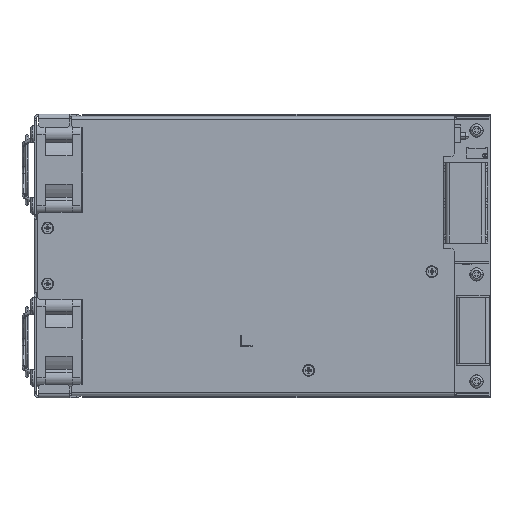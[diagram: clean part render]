
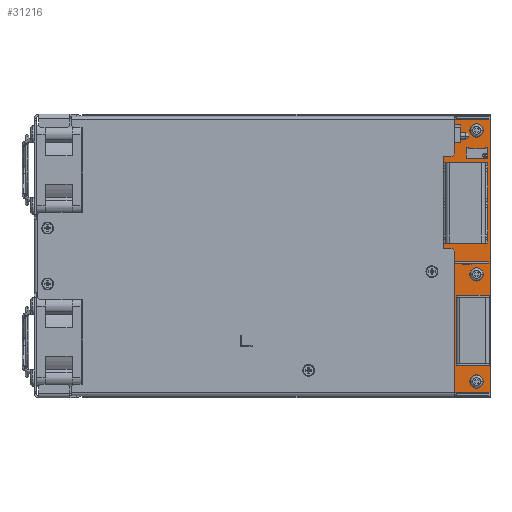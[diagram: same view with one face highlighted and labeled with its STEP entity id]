
A CAD part, front view. The second image highlights one B-rep face of the part: STEP entity #31216.
In plain terms, the highlighted planar face has unit normal (0, -1, 0) as drawn and (0, 1, 0) by its records, which use the part's own axes.
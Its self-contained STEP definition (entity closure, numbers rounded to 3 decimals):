
#30657=DIRECTION('',(1.,0.,0.));
#30658=VECTOR('',#30657,0.5);
#30659=CARTESIAN_POINT('',(-61.2,1.6,-155.5));
#30660=LINE('',#30659,#30658);
#30669=DIRECTION('',(0.,0.,-1.));
#30670=VECTOR('',#30669,8.);
#30671=CARTESIAN_POINT('',(-59.7,1.6,-146.5));
#30672=LINE('',#30671,#30670);
#30673=CARTESIAN_POINT('',(-60.7,1.6,-154.5));
#30674=DIRECTION('',(0.,1.,0.));
#30675=DIRECTION('',(1.,0.,0.));
#30676=AXIS2_PLACEMENT_3D('',#30673,#30674,#30675);
#30678=DIRECTION('',(-1.,0.,0.));
#30679=VECTOR('',#30678,9.);
#30680=CARTESIAN_POINT('',(61.2,1.6,-9.));
#30681=LINE('',#30680,#30679);
#30682=DIRECTION('',(0.,0.,1.));
#30683=VECTOR('',#30682,9.);
#30684=CARTESIAN_POINT('',(52.2,1.6,-9.));
#30685=LINE('',#30684,#30683);
#30686=DIRECTION('',(0.,0.,-1.));
#30687=VECTOR('',#30686,9.);
#30688=CARTESIAN_POINT('',(-59.7,1.6,0.));
#30689=LINE('',#30688,#30687);
#30690=DIRECTION('',(1.,0.,0.));
#30691=VECTOR('',#30690,0.5);
#30692=CARTESIAN_POINT('',(-61.2,1.6,-145.5));
#30693=LINE('',#30692,#30691);
#30694=CARTESIAN_POINT('',(-60.7,1.6,-146.5));
#30695=DIRECTION('',(0.,1.,0.));
#30696=DIRECTION('',(0.,0.,1.));
#30697=AXIS2_PLACEMENT_3D('',#30694,#30695,#30696);
#30699=CARTESIAN_POINT('',(46.7,1.6,-5.5));
#30700=DIRECTION('',(0.,1.,0.));
#30701=DIRECTION('',(0.,0.,-1.));
#30702=AXIS2_PLACEMENT_3D('',#30699,#30700,#30701);
#30704=CARTESIAN_POINT('',(46.7,1.6,-5.5));
#30705=DIRECTION('',(0.,1.,0.));
#30706=DIRECTION('',(0.,0.,1.));
#30707=AXIS2_PLACEMENT_3D('',#30704,#30705,#30706);
#30709=CARTESIAN_POINT('',(-56.2,1.6,-175.));
#30710=DIRECTION('',(0.,1.,0.));
#30711=DIRECTION('',(0.,0.,-1.));
#30712=AXIS2_PLACEMENT_3D('',#30709,#30710,#30711);
#30714=CARTESIAN_POINT('',(-56.2,1.6,-175.));
#30715=DIRECTION('',(0.,1.,0.));
#30716=DIRECTION('',(0.,0.,1.));
#30717=AXIS2_PLACEMENT_3D('',#30714,#30715,#30716);
#30719=CARTESIAN_POINT('',(56.2,1.6,-175.));
#30720=DIRECTION('',(0.,1.,0.));
#30721=DIRECTION('',(0.,0.,-1.));
#30722=AXIS2_PLACEMENT_3D('',#30719,#30720,#30721);
#30724=CARTESIAN_POINT('',(56.2,1.6,-175.));
#30725=DIRECTION('',(0.,1.,0.));
#30726=DIRECTION('',(0.,0.,1.));
#30727=AXIS2_PLACEMENT_3D('',#30724,#30725,#30726);
#30729=CARTESIAN_POINT('',(8.2,1.6,-175.));
#30730=DIRECTION('',(0.,1.,0.));
#30731=DIRECTION('',(0.,0.,-1.));
#30732=AXIS2_PLACEMENT_3D('',#30729,#30730,#30731);
#30734=CARTESIAN_POINT('',(8.2,1.6,-175.));
#30735=DIRECTION('',(0.,1.,0.));
#30736=DIRECTION('',(0.,0.,1.));
#30737=AXIS2_PLACEMENT_3D('',#30734,#30735,#30736);
#30739=CARTESIAN_POINT('',(5.2,1.6,-103.));
#30740=DIRECTION('',(0.,1.,0.));
#30741=DIRECTION('',(0.,0.,-1.));
#30742=AXIS2_PLACEMENT_3D('',#30739,#30740,#30741);
#30744=CARTESIAN_POINT('',(5.2,1.6,-103.));
#30745=DIRECTION('',(0.,1.,0.));
#30746=DIRECTION('',(0.,0.,1.));
#30747=AXIS2_PLACEMENT_3D('',#30744,#30745,#30746);
#30769=DIRECTION('',(0.,0.,1.));
#30770=VECTOR('',#30769,136.5);
#30771=CARTESIAN_POINT('',(-61.2,1.6,-145.5));
#30772=LINE('',#30771,#30770);
#30777=DIRECTION('',(1.,0.,0.));
#30778=VECTOR('',#30777,1.5);
#30779=CARTESIAN_POINT('',(-61.2,1.6,-9.));
#30780=LINE('',#30779,#30778);
#30793=DIRECTION('',(1.,0.,0.));
#30794=VECTOR('',#30793,43.);
#30795=CARTESIAN_POINT('',(-59.7,1.6,0.));
#30796=LINE('',#30795,#30794);
#30801=DIRECTION('',(0.,0.,1.));
#30802=VECTOR('',#30801,20.);
#30803=CARTESIAN_POINT('',(-16.7,1.6,0.));
#30804=LINE('',#30803,#30802);
#30809=DIRECTION('',(1.,0.,0.));
#30810=VECTOR('',#30809,33.4);
#30811=CARTESIAN_POINT('',(-16.7,1.6,20.));
#30812=LINE('',#30811,#30810);
#30817=DIRECTION('',(0.,0.,-1.));
#30818=VECTOR('',#30817,20.);
#30819=CARTESIAN_POINT('',(16.7,1.6,20.));
#30820=LINE('',#30819,#30818);
#30825=DIRECTION('',(1.,0.,0.));
#30826=VECTOR('',#30825,35.5);
#30827=CARTESIAN_POINT('',(16.7,1.6,0.));
#30828=LINE('',#30827,#30826);
#30849=DIRECTION('',(0.,0.,-1.));
#30850=VECTOR('',#30849,172.);
#30851=CARTESIAN_POINT('',(61.2,1.6,-9.));
#30852=LINE('',#30851,#30850);
#30857=DIRECTION('',(-1.,0.,0.));
#30858=VECTOR('',#30857,122.4);
#30859=CARTESIAN_POINT('',(61.2,1.6,-181.));
#30860=LINE('',#30859,#30858);
#30865=DIRECTION('',(0.,0.,1.));
#30866=VECTOR('',#30865,25.5);
#30867=CARTESIAN_POINT('',(-61.2,1.6,-181.));
#30868=LINE('',#30867,#30866);
#30965=CARTESIAN_POINT('',(-60.7,1.6,-155.5));
#30966=VERTEX_POINT('',#30965);
#30967=CARTESIAN_POINT('',(-61.2,1.6,-155.5));
#30968=VERTEX_POINT('',#30967);
#30969=CARTESIAN_POINT('',(-59.7,1.6,-154.5));
#30970=VERTEX_POINT('',#30969);
#30971=CARTESIAN_POINT('',(-59.7,1.6,-146.5));
#30972=VERTEX_POINT('',#30971);
#30973=CARTESIAN_POINT('',(-61.2,1.6,-181.));
#30974=VERTEX_POINT('',#30973);
#30975=CARTESIAN_POINT('',(61.2,1.6,-181.));
#30976=VERTEX_POINT('',#30975);
#30977=CARTESIAN_POINT('',(61.2,1.6,-9.));
#30978=VERTEX_POINT('',#30977);
#30979=CARTESIAN_POINT('',(52.2,1.6,-9.));
#30980=VERTEX_POINT('',#30979);
#30981=CARTESIAN_POINT('',(52.2,1.6,0.));
#30982=VERTEX_POINT('',#30981);
#30983=CARTESIAN_POINT('',(16.7,1.6,0.));
#30984=VERTEX_POINT('',#30983);
#30985=CARTESIAN_POINT('',(16.7,1.6,20.));
#30986=VERTEX_POINT('',#30985);
#30987=CARTESIAN_POINT('',(-16.7,1.6,20.));
#30988=VERTEX_POINT('',#30987);
#30989=CARTESIAN_POINT('',(-16.7,1.6,0.));
#30990=VERTEX_POINT('',#30989);
#30991=CARTESIAN_POINT('',(-59.7,1.6,0.));
#30992=VERTEX_POINT('',#30991);
#30993=CARTESIAN_POINT('',(-59.7,1.6,-9.));
#30994=VERTEX_POINT('',#30993);
#30995=CARTESIAN_POINT('',(-61.2,1.6,-9.));
#30996=VERTEX_POINT('',#30995);
#30997=CARTESIAN_POINT('',(-61.2,1.6,-145.5));
#30998=VERTEX_POINT('',#30997);
#30999=CARTESIAN_POINT('',(-60.7,1.6,-145.5));
#31000=VERTEX_POINT('',#30999);
#31001=CARTESIAN_POINT('',(46.7,1.6,-7.25));
#31002=CARTESIAN_POINT('',(46.7,1.6,-3.75));
#31003=VERTEX_POINT('',#31001);
#31004=VERTEX_POINT('',#31002);
#31005=CARTESIAN_POINT('',(-56.2,1.6,-176.75));
#31006=CARTESIAN_POINT('',(-56.2,1.6,-173.25));
#31007=VERTEX_POINT('',#31005);
#31008=VERTEX_POINT('',#31006);
#31009=CARTESIAN_POINT('',(56.2,1.6,-176.75));
#31010=CARTESIAN_POINT('',(56.2,1.6,-173.25));
#31011=VERTEX_POINT('',#31009);
#31012=VERTEX_POINT('',#31010);
#31013=CARTESIAN_POINT('',(8.2,1.6,-176.75));
#31014=CARTESIAN_POINT('',(8.2,1.6,-173.25));
#31015=VERTEX_POINT('',#31013);
#31016=VERTEX_POINT('',#31014);
#31017=CARTESIAN_POINT('',(5.2,1.6,-104.75));
#31018=CARTESIAN_POINT('',(5.2,1.6,-101.25));
#31019=VERTEX_POINT('',#31017);
#31020=VERTEX_POINT('',#31018);
#31145=CARTESIAN_POINT('',(0.,1.6,0.));
#31146=DIRECTION('',(0.,1.,0.));
#31147=DIRECTION('',(1.,0.,0.));
#31148=AXIS2_PLACEMENT_3D('',#31145,#31146,#31147);
#31149=PLANE('',#31148);
#31151=ORIENTED_EDGE('',*,*,#31150,.T.);
#31152=ORIENTED_EDGE('',*,*,#31130,.T.);
#31153=ORIENTED_EDGE('',*,*,#31112,.F.);
#31155=ORIENTED_EDGE('',*,*,#31154,.F.);
#31157=ORIENTED_EDGE('',*,*,#31156,.F.);
#31159=ORIENTED_EDGE('',*,*,#31158,.F.);
#31161=ORIENTED_EDGE('',*,*,#31160,.T.);
#31163=ORIENTED_EDGE('',*,*,#31162,.T.);
#31165=ORIENTED_EDGE('',*,*,#31164,.F.);
#31167=ORIENTED_EDGE('',*,*,#31166,.F.);
#31169=ORIENTED_EDGE('',*,*,#31168,.F.);
#31171=ORIENTED_EDGE('',*,*,#31170,.F.);
#31173=ORIENTED_EDGE('',*,*,#31172,.F.);
#31175=ORIENTED_EDGE('',*,*,#31174,.T.);
#31177=ORIENTED_EDGE('',*,*,#31176,.F.);
#31179=ORIENTED_EDGE('',*,*,#31178,.F.);
#31181=ORIENTED_EDGE('',*,*,#31180,.T.);
#31183=ORIENTED_EDGE('',*,*,#31182,.T.);
#31184=EDGE_LOOP('',(#31151,#31152,#31153,#31155,#31157,#31159,#31161,#31163,
#31165,#31167,#31169,#31171,#31173,#31175,#31177,#31179,#31181,#31183));
#31185=FACE_OUTER_BOUND('',#31184,.F.);
#31187=ORIENTED_EDGE('',*,*,#31186,.T.);
#31189=ORIENTED_EDGE('',*,*,#31188,.T.);
#31190=EDGE_LOOP('',(#31187,#31189));
#31191=FACE_BOUND('',#31190,.F.);
#31193=ORIENTED_EDGE('',*,*,#31192,.T.);
#31195=ORIENTED_EDGE('',*,*,#31194,.T.);
#31196=EDGE_LOOP('',(#31193,#31195));
#31197=FACE_BOUND('',#31196,.F.);
#31199=ORIENTED_EDGE('',*,*,#31198,.T.);
#31201=ORIENTED_EDGE('',*,*,#31200,.T.);
#31202=EDGE_LOOP('',(#31199,#31201));
#31203=FACE_BOUND('',#31202,.F.);
#31205=ORIENTED_EDGE('',*,*,#31204,.T.);
#31207=ORIENTED_EDGE('',*,*,#31206,.T.);
#31208=EDGE_LOOP('',(#31205,#31207));
#31209=FACE_BOUND('',#31208,.F.);
#31211=ORIENTED_EDGE('',*,*,#31210,.T.);
#31213=ORIENTED_EDGE('',*,*,#31212,.T.);
#31214=EDGE_LOOP('',(#31211,#31213));
#31215=FACE_BOUND('',#31214,.F.);
#30677=CIRCLE('',#30676,1.);
#30698=CIRCLE('',#30697,1.);
#30703=CIRCLE('',#30702,1.75);
#30708=CIRCLE('',#30707,1.75);
#30713=CIRCLE('',#30712,1.75);
#30718=CIRCLE('',#30717,1.75);
#30723=CIRCLE('',#30722,1.75);
#30728=CIRCLE('',#30727,1.75);
#30733=CIRCLE('',#30732,1.75);
#30738=CIRCLE('',#30737,1.75);
#30743=CIRCLE('',#30742,1.75);
#30748=CIRCLE('',#30747,1.75);
#31112=EDGE_CURVE('',#30968,#30966,#30660,.T.);
#31130=EDGE_CURVE('',#30970,#30966,#30677,.T.);
#31150=EDGE_CURVE('',#30972,#30970,#30672,.T.);
#31154=EDGE_CURVE('',#30974,#30968,#30868,.T.);
#31156=EDGE_CURVE('',#30976,#30974,#30860,.T.);
#31158=EDGE_CURVE('',#30978,#30976,#30852,.T.);
#31160=EDGE_CURVE('',#30978,#30980,#30681,.T.);
#31162=EDGE_CURVE('',#30980,#30982,#30685,.T.);
#31164=EDGE_CURVE('',#30984,#30982,#30828,.T.);
#31166=EDGE_CURVE('',#30986,#30984,#30820,.T.);
#31168=EDGE_CURVE('',#30988,#30986,#30812,.T.);
#31170=EDGE_CURVE('',#30990,#30988,#30804,.T.);
#31172=EDGE_CURVE('',#30992,#30990,#30796,.T.);
#31174=EDGE_CURVE('',#30992,#30994,#30689,.T.);
#31176=EDGE_CURVE('',#30996,#30994,#30780,.T.);
#31178=EDGE_CURVE('',#30998,#30996,#30772,.T.);
#31180=EDGE_CURVE('',#30998,#31000,#30693,.T.);
#31182=EDGE_CURVE('',#31000,#30972,#30698,.T.);
#31186=EDGE_CURVE('',#31003,#31004,#30703,.T.);
#31188=EDGE_CURVE('',#31004,#31003,#30708,.T.);
#31192=EDGE_CURVE('',#31007,#31008,#30713,.T.);
#31194=EDGE_CURVE('',#31008,#31007,#30718,.T.);
#31198=EDGE_CURVE('',#31011,#31012,#30723,.T.);
#31200=EDGE_CURVE('',#31012,#31011,#30728,.T.);
#31204=EDGE_CURVE('',#31015,#31016,#30733,.T.);
#31206=EDGE_CURVE('',#31016,#31015,#30738,.T.);
#31210=EDGE_CURVE('',#31019,#31020,#30743,.T.);
#31212=EDGE_CURVE('',#31020,#31019,#30748,.T.);
#31216=ADVANCED_FACE('',(#31185,#31191,#31197,#31203,#31209,#31215),#31149,.T.);
